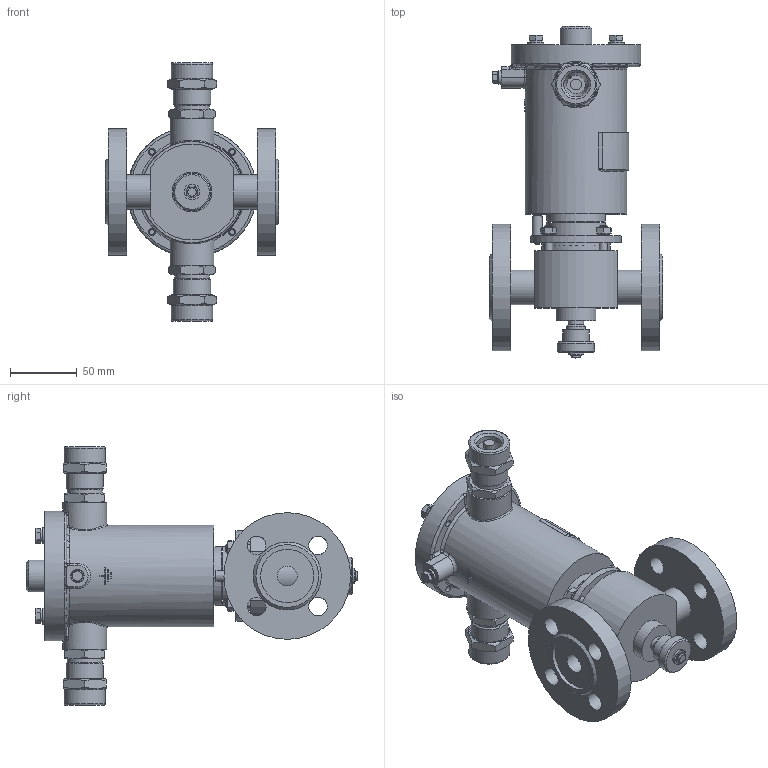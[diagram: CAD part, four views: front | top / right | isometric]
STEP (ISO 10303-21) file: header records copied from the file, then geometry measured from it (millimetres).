
FILE_DESCRIPTION(('STEP AP203'), '1');
FILE_NAME('ÑÅÍÑ DN15PN25-Â-ÍÎ-ÑÂ.stp', '2018-09-19T08:53:03', ('Îðëîâ Å.Â.'), ('ÎÎÎ ÍÏÏ Ñåíñîð'), 'ASCON STEP Converter 1.3', 'Kompas 3D', '');
FILE_SCHEMA(('CONFIG_CONTROL_DESIGN','SUPPORT_RESOURCE_SCHEMA'));
Length unit declared in the file: millimetre
Products named in the file (1): 92
Bounding box: 130 x 249 x 194 mm (x, y, z)
Volume: 740096.6 mm3; surface area: 224591.1 mm2
Topology: 3 solids, 23 shells, 1912 faces, 5066 edges, 3303 vertices
Faces by surface type: cylinder 991, plane 721, cone 136, bspline 29, torus 19, extrusion 16
Full cylindrical faces by diameter (mm): 2.459 x4, 4 x8, 4.134 x1, 4.5 x2, 4.917 x8, 5 x2, 5.1 x1, 6 x15, 6.3 x2, 6.4 x1, 6.5 x11, 8 x8, 10 x3, 11.5 x1, 12 x5, 12.4 x1, 13 x2, 14 x9, 15 x2, 16 x1, 16.5 x1, 18 x1, 18.632 x2, 20 x5, 22 x2, 22.376 x2, 23.5 x3, 24 x4, 24.5 x3, 25 x2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
Entity records: 72177 total; most frequent: CARTESIAN_POINT 23414, DIRECTION 10635, ORIENTED_EDGE 10060, EDGE_CURVE 5030, AXIS2_PLACEMENT_3D 4100, VERTEX_POINT 3291, VECTOR 2435, LINE 2419
